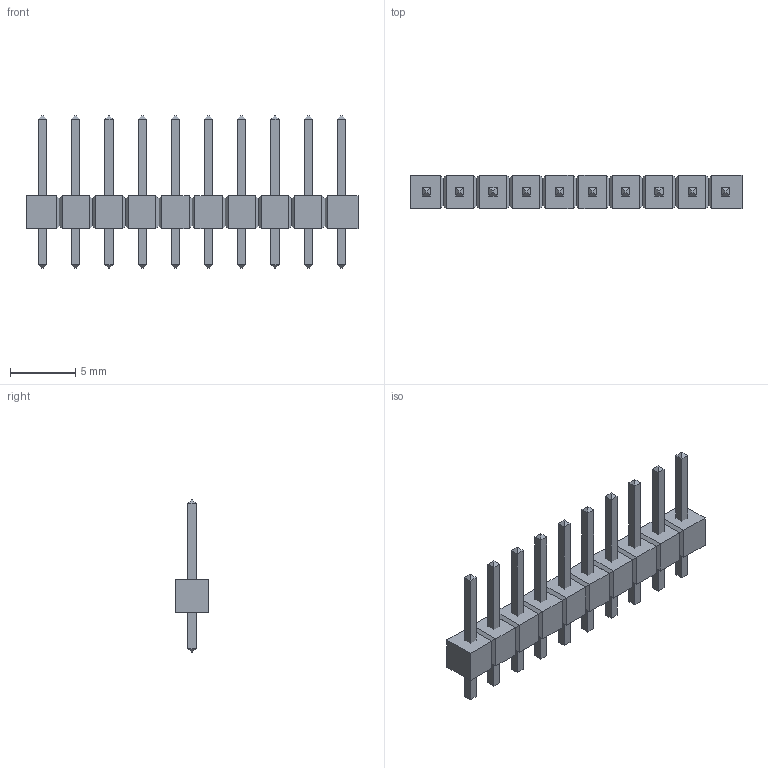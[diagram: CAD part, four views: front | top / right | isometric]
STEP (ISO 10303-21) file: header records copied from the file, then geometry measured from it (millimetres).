
FILE_DESCRIPTION(('FreeCAD Model'),'2;1');
FILE_NAME('/var/www/3D/0T/233555.5.1.stp','2026-01-02T13:25:48',( 'Author'),(''),'Open CASCADE STEP processor 6.9','FreeCAD','Unknown' );
FILE_SCHEMA(('AUTOMOTIVE_DESIGN { 1 0 10303 214 1 1 1 1 }'));
Length unit declared in the file: millimetre
Products named in the file (3): ASSEMBLY; Body; LeadsArray
Assembly tree (2 placements, depth 2):
  ASSEMBLY
    Body
    LeadsArray
Bounding box: 25.4 x 2.54 x 11.64 mm (x, y, z)
Volume: 206 mm3; surface area: 579.2 mm2
Topology: 11 solids, 11 shells, 254 faces, 508 edges, 276 vertices
Faces by surface type: plane 254
Entity records: 12777 total; most frequent: CARTESIAN_POINT 2201, DIRECTION 1894, LINE 1380, VECTOR 1380, ORIENTED_EDGE 1016, PCURVE 1016, DEFINITIONAL_REPRESENTATION 1016, EDGE_CURVE 508
